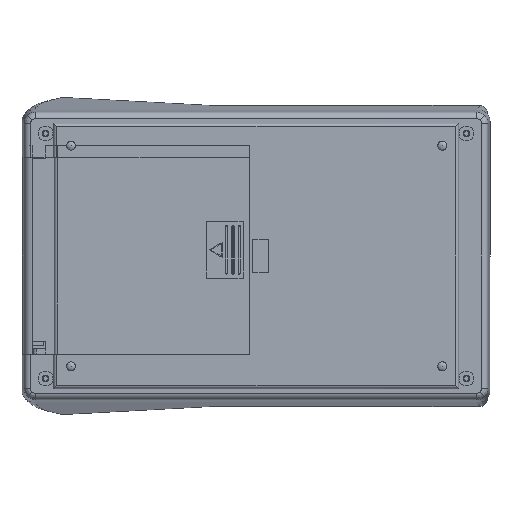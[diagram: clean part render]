
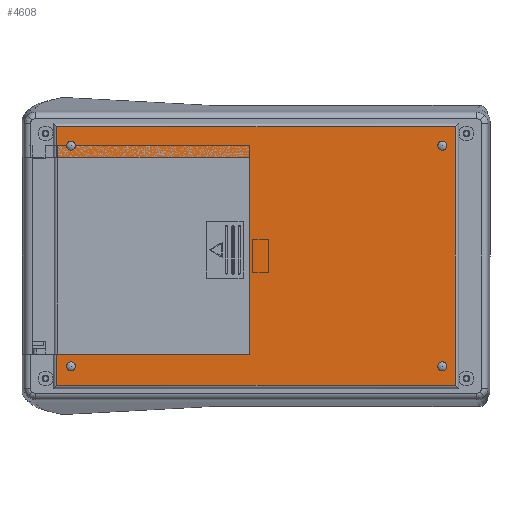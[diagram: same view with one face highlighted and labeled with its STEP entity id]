
A CAD part, front view. The second image highlights one B-rep face of the part: STEP entity #4608.
In plain terms, the highlighted planar face has unit normal (0, -1, 0).
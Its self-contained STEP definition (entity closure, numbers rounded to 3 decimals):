
#292 = ORIENTED_EDGE ( 'NONE', *, *, #12733, .F. ) ;
#607 = ORIENTED_EDGE ( 'NONE', *, *, #3445, .F. ) ;
#672 = ORIENTED_EDGE ( 'NONE', *, *, #11266, .F. ) ;
#740 = VECTOR ( 'NONE', #16047, 1000. ) ;
#865 = FACE_BOUND ( 'NONE', #8665, .T. ) ;
#905 = DIRECTION ( 'NONE',  ( 0., 0., -1. ) ) ;
#979 = EDGE_LOOP ( 'NONE', ( #672, #15240 ) ) ;
#1011 = CARTESIAN_POINT ( 'NONE',  ( -57.5, -16., 34.3 ) ) ;
#1089 = DIRECTION ( 'NONE',  ( 0., 0., -1. ) ) ;
#1118 = AXIS2_PLACEMENT_3D ( 'NONE', #9935, #22950, #11829 ) ;
#1372 = DIRECTION ( 'NONE',  ( 0., 0., -1. ) ) ;
#1425 = VECTOR ( 'NONE', #9980, 1000. ) ;
#1469 = EDGE_CURVE ( 'NONE', #10737, #15408, #2370, .T. ) ;
#1627 = VERTEX_POINT ( 'NONE', #20115 ) ;
#2351 = VERTEX_POINT ( 'NONE', #6512 ) ;
#2370 = CIRCLE ( 'NONE', #8464, 1.4 ) ;
#2462 = CIRCLE ( 'NONE', #11662, 1.4 ) ;
#2643 = VECTOR ( 'NONE', #14288, 1000. ) ;
#2835 = VERTEX_POINT ( 'NONE', #2885 ) ;
#2858 = CARTESIAN_POINT ( 'NONE',  ( -2., -16., -30.5 ) ) ;
#2864 = DIRECTION ( 'NONE',  ( 0., 0., -1. ) ) ;
#2885 = CARTESIAN_POINT ( 'NONE',  ( -62., -16., -30.5 ) ) ;
#2961 = DIRECTION ( 'NONE',  ( 0., 0., -1. ) ) ;
#3001 = CARTESIAN_POINT ( 'NONE',  ( 63., -16., -40.25 ) ) ;
#3231 = VERTEX_POINT ( 'NONE', #22577 ) ;
#3445 = EDGE_CURVE ( 'NONE', #15408, #10737, #12906, .T. ) ;
#3519 = CARTESIAN_POINT ( 'NONE',  ( -57.5, -16., 34.3 ) ) ;
#3621 = ORIENTED_EDGE ( 'NONE', *, *, #15509, .F. ) ;
#3643 = CARTESIAN_POINT ( 'NONE',  ( -2., -16., 30.5 ) ) ;
#3720 = AXIS2_PLACEMENT_3D ( 'NONE', #23195, #12076, #905 ) ;
#3763 = ORIENTED_EDGE ( 'NONE', *, *, #24036, .T. ) ;
#3805 = EDGE_CURVE ( 'NONE', #2835, #5305, #15209, .T. ) ;
#4321 = VERTEX_POINT ( 'NONE', #9485 ) ;
#4502 = CARTESIAN_POINT ( 'NONE',  ( -62., -16., -40.25 ) ) ;
#4608 = ADVANCED_FACE ( 'NONE', ( #20720, #10754, #6405, #865, #5824 ), #14046, .T. ) ;
#4911 = CARTESIAN_POINT ( 'NONE',  ( -63., -16., 40.25 ) ) ;
#5127 = CIRCLE ( 'NONE', #3720, 1.4 ) ;
#5305 = VERTEX_POINT ( 'NONE', #4502 ) ;
#5308 = LINE ( 'NONE', #2858, #7655 ) ;
#5389 = CARTESIAN_POINT ( 'NONE',  ( -2., -16., 30.5 ) ) ;
#5406 = DIRECTION ( 'NONE',  ( 0., 0., -1. ) ) ;
#5563 = CARTESIAN_POINT ( 'NONE',  ( 57.9, -16., -34.3 ) ) ;
#5779 = CARTESIAN_POINT ( 'NONE',  ( -62., -16., -41.25 ) ) ;
#5824 = FACE_BOUND ( 'NONE', #979, .T. ) ;
#6405 = FACE_BOUND ( 'NONE', #21046, .T. ) ;
#6512 = CARTESIAN_POINT ( 'NONE',  ( -57.5, -16., -32.9 ) ) ;
#6541 = CARTESIAN_POINT ( 'NONE',  ( 57.9, -16., 34.3 ) ) ;
#7022 = CARTESIAN_POINT ( 'NONE',  ( 57.9, -16., -32.9 ) ) ;
#7439 = DIRECTION ( 'NONE',  ( 0., 0., -1. ) ) ;
#7484 = EDGE_CURVE ( 'NONE', #9005, #11543, #13407, .T. ) ;
#7533 = EDGE_CURVE ( 'NONE', #13039, #11543, #11638, .T. ) ;
#7655 = VECTOR ( 'NONE', #15911, 1000. ) ;
#8362 = CARTESIAN_POINT ( 'NONE',  ( 57.9, -16., 34.3 ) ) ;
#8374 = DIRECTION ( 'NONE',  ( 0., 0., -1. ) ) ;
#8464 = AXIS2_PLACEMENT_3D ( 'NONE', #8362, #21446, #10262 ) ;
#8665 = EDGE_LOOP ( 'NONE', ( #15960, #16968 ) ) ;
#8820 = AXIS2_PLACEMENT_3D ( 'NONE', #1011, #14027, #2864 ) ;
#9005 = VERTEX_POINT ( 'NONE', #5389 ) ;
#9485 = CARTESIAN_POINT ( 'NONE',  ( -57.5, -16., 32.9 ) ) ;
#9561 = CARTESIAN_POINT ( 'NONE',  ( -62., -16., 30.5 ) ) ;
#9834 = DIRECTION ( 'NONE',  ( 0., 0., 1. ) ) ;
#9935 = CARTESIAN_POINT ( 'NONE',  ( -57.5, -16., -34.3 ) ) ;
#9980 = DIRECTION ( 'NONE',  ( 1., 0., 0. ) ) ;
#10221 = EDGE_CURVE ( 'NONE', #5305, #12954, #15618, .T. ) ;
#10262 = DIRECTION ( 'NONE',  ( 0., 0., -1. ) ) ;
#10737 = VERTEX_POINT ( 'NONE', #18170 ) ;
#10754 = FACE_OUTER_BOUND ( 'NONE', #18048, .T. ) ;
#11266 = EDGE_CURVE ( 'NONE', #3231, #4321, #22862, .T. ) ;
#11334 = LINE ( 'NONE', #19312, #1425 ) ;
#11543 = VERTEX_POINT ( 'NONE', #9561 ) ;
#11638 = LINE ( 'NONE', #5779, #17211 ) ;
#11662 = AXIS2_PLACEMENT_3D ( 'NONE', #23393, #12252, #1089 ) ;
#11781 = EDGE_CURVE ( 'NONE', #20735, #2351, #2462, .T. ) ;
#11829 = DIRECTION ( 'NONE',  ( 0., 0., -1. ) ) ;
#12076 = DIRECTION ( 'NONE',  ( 0., -1., 0. ) ) ;
#12252 = DIRECTION ( 'NONE',  ( 0., -1., 0. ) ) ;
#12363 = LINE ( 'NONE', #19180, #16164 ) ;
#12373 = CIRCLE ( 'NONE', #12783, 1.4 ) ;
#12536 = CARTESIAN_POINT ( 'NONE',  ( -62., -16., -41.25 ) ) ;
#12694 = EDGE_CURVE ( 'NONE', #4321, #3231, #12373, .T. ) ;
#12733 = EDGE_CURVE ( 'NONE', #15123, #20972, #16173, .T. ) ;
#12783 = AXIS2_PLACEMENT_3D ( 'NONE', #3519, #16580, #5406 ) ;
#12817 = VECTOR ( 'NONE', #20471, 1000. ) ;
#12906 = CIRCLE ( 'NONE', #23949, 1.4 ) ;
#12954 = VERTEX_POINT ( 'NONE', #21146 ) ;
#13039 = VERTEX_POINT ( 'NONE', #15840 ) ;
#13151 = LINE ( 'NONE', #4911, #2643 ) ;
#13407 = LINE ( 'NONE', #3643, #12817 ) ;
#13706 = ORIENTED_EDGE ( 'NONE', *, *, #20363, .F. ) ;
#13898 = EDGE_CURVE ( 'NONE', #15469, #9005, #5308, .T. ) ;
#14027 = DIRECTION ( 'NONE',  ( 0., -1., 0. ) ) ;
#14046 = PLANE ( 'NONE',  #15405 ) ;
#14131 = DIRECTION ( 'NONE',  ( 0., -1., 0. ) ) ;
#14194 = CARTESIAN_POINT ( 'NONE',  ( 57.9, -16., -35.7 ) ) ;
#14288 = DIRECTION ( 'NONE',  ( -1., 0., 0. ) ) ;
#15123 = VERTEX_POINT ( 'NONE', #7022 ) ;
#15209 = LINE ( 'NONE', #12536, #15786 ) ;
#15240 = ORIENTED_EDGE ( 'NONE', *, *, #12694, .F. ) ;
#15405 = AXIS2_PLACEMENT_3D ( 'NONE', #23389, #14131, #2961 ) ;
#15408 = VERTEX_POINT ( 'NONE', #19183 ) ;
#15469 = VERTEX_POINT ( 'NONE', #17465 ) ;
#15509 = EDGE_CURVE ( 'NONE', #20972, #15123, #5127, .T. ) ;
#15618 = LINE ( 'NONE', #3001, #740 ) ;
#15786 = VECTOR ( 'NONE', #1372, 1000. ) ;
#15840 = CARTESIAN_POINT ( 'NONE',  ( -62., -16., 40.25 ) ) ;
#15911 = DIRECTION ( 'NONE',  ( 0., 0., 1. ) ) ;
#15960 = ORIENTED_EDGE ( 'NONE', *, *, #18264, .F. ) ;
#16047 = DIRECTION ( 'NONE',  ( 1., 0., 0. ) ) ;
#16081 = CIRCLE ( 'NONE', #1118, 1.4 ) ;
#16164 = VECTOR ( 'NONE', #9834, 1000. ) ;
#16173 = CIRCLE ( 'NONE', #20301, 1.4 ) ;
#16289 = EDGE_LOOP ( 'NONE', ( #607, #18500 ) ) ;
#16580 = DIRECTION ( 'NONE',  ( 0., -1., 0. ) ) ;
#16772 = CARTESIAN_POINT ( 'NONE',  ( -57.5, -16., -35.7 ) ) ;
#16968 = ORIENTED_EDGE ( 'NONE', *, *, #11781, .F. ) ;
#17211 = VECTOR ( 'NONE', #18851, 1000. ) ;
#17465 = CARTESIAN_POINT ( 'NONE',  ( -2., -16., -30.5 ) ) ;
#18048 = EDGE_LOOP ( 'NONE', ( #23076, #19923, #13706, #22901, #18697, #20310, #3763, #21241 ) ) ;
#18170 = CARTESIAN_POINT ( 'NONE',  ( 57.9, -16., 32.9 ) ) ;
#18264 = EDGE_CURVE ( 'NONE', #2351, #20735, #16081, .T. ) ;
#18500 = ORIENTED_EDGE ( 'NONE', *, *, #1469, .F. ) ;
#18633 = DIRECTION ( 'NONE',  ( 0., -1., 0. ) ) ;
#18697 = ORIENTED_EDGE ( 'NONE', *, *, #10221, .T. ) ;
#18851 = DIRECTION ( 'NONE',  ( 0., 0., -1. ) ) ;
#19180 = CARTESIAN_POINT ( 'NONE',  ( 62., -16., 41.25 ) ) ;
#19183 = CARTESIAN_POINT ( 'NONE',  ( 57.9, -16., 35.7 ) ) ;
#19312 = CARTESIAN_POINT ( 'NONE',  ( -2., -16., -30.5 ) ) ;
#19593 = DIRECTION ( 'NONE',  ( 0., -1., 0. ) ) ;
#19923 = ORIENTED_EDGE ( 'NONE', *, *, #13898, .F. ) ;
#20115 = CARTESIAN_POINT ( 'NONE',  ( 62., -16., 40.25 ) ) ;
#20301 = AXIS2_PLACEMENT_3D ( 'NONE', #5563, #18633, #7439 ) ;
#20310 = ORIENTED_EDGE ( 'NONE', *, *, #21411, .T. ) ;
#20363 = EDGE_CURVE ( 'NONE', #2835, #15469, #11334, .T. ) ;
#20471 = DIRECTION ( 'NONE',  ( -1., 0., 0. ) ) ;
#20720 = FACE_BOUND ( 'NONE', #16289, .T. ) ;
#20735 = VERTEX_POINT ( 'NONE', #16772 ) ;
#20972 = VERTEX_POINT ( 'NONE', #14194 ) ;
#21046 = EDGE_LOOP ( 'NONE', ( #292, #3621 ) ) ;
#21146 = CARTESIAN_POINT ( 'NONE',  ( 62., -16., -40.25 ) ) ;
#21241 = ORIENTED_EDGE ( 'NONE', *, *, #7533, .T. ) ;
#21411 = EDGE_CURVE ( 'NONE', #12954, #1627, #12363, .T. ) ;
#21446 = DIRECTION ( 'NONE',  ( 0., -1., 0. ) ) ;
#22577 = CARTESIAN_POINT ( 'NONE',  ( -57.5, -16., 35.7 ) ) ;
#22862 = CIRCLE ( 'NONE', #8820, 1.4 ) ;
#22901 = ORIENTED_EDGE ( 'NONE', *, *, #3805, .T. ) ;
#22950 = DIRECTION ( 'NONE',  ( 0., -1., 0. ) ) ;
#23076 = ORIENTED_EDGE ( 'NONE', *, *, #7484, .F. ) ;
#23195 = CARTESIAN_POINT ( 'NONE',  ( 57.9, -16., -34.3 ) ) ;
#23389 = CARTESIAN_POINT ( 'NONE',  ( -63., -16., 41.25 ) ) ;
#23393 = CARTESIAN_POINT ( 'NONE',  ( -57.5, -16., -34.3 ) ) ;
#23949 = AXIS2_PLACEMENT_3D ( 'NONE', #6541, #19593, #8374 ) ;
#24036 = EDGE_CURVE ( 'NONE', #1627, #13039, #13151, .T. ) ;
